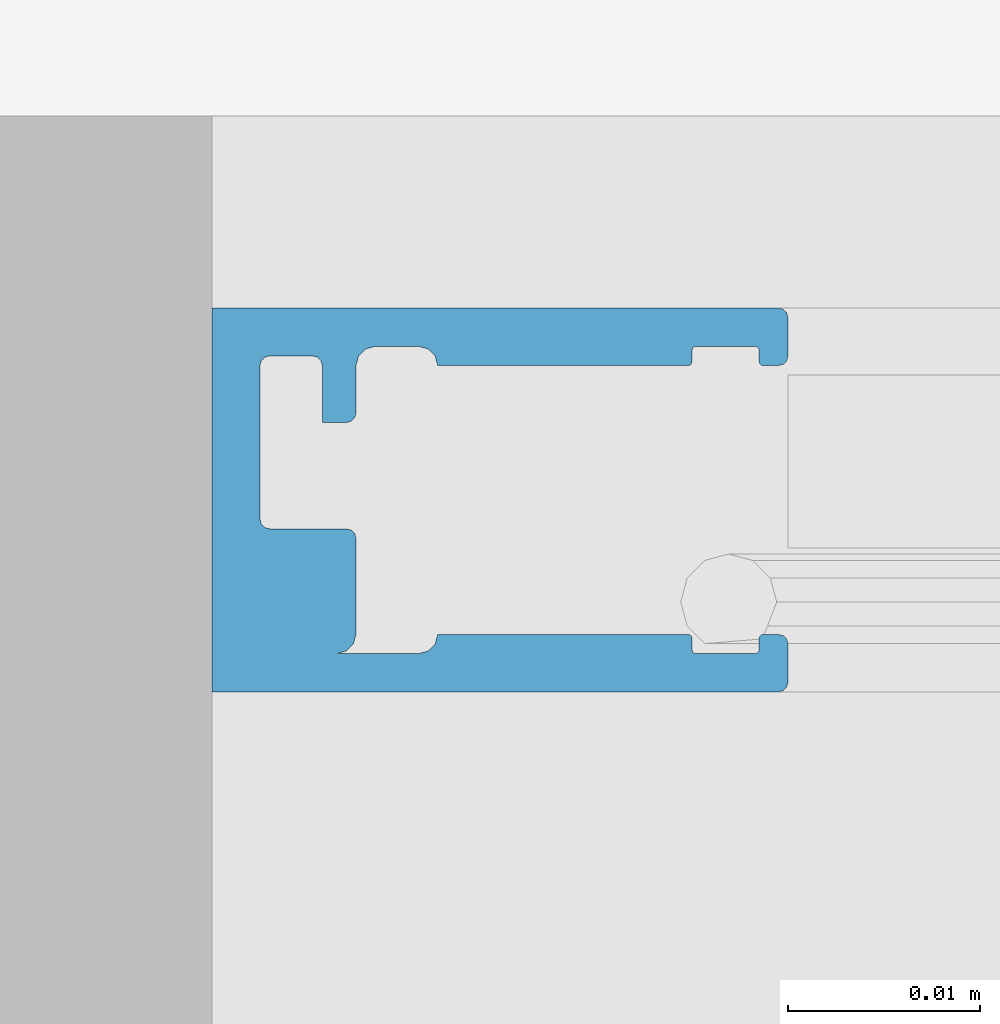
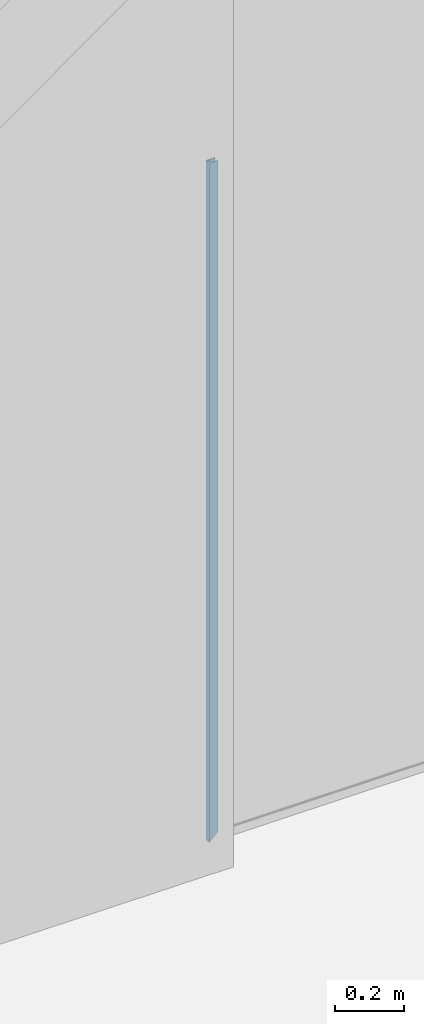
# One storey, part 87 of 387: 1 building element part, 2 elements without a shape of their own.
"""IFC2X3 building model written with IfcOpenShell, lengths in millimetres."""

from ifc_helpers import new_model, entity, si_unit, converted_unit, derived_unit, money_unit, direction, frame, origin_with_axes, place, context, subcontext, project, spatial, faceted_brep, source, transform, mapped, material, type_object, element, aggregate, save


model = new_model("IFC2X3")

# Units and contexts
model_context = context("Model", 3, precision=0.01, world=origin_with_axes(), true_north=direction((0.0, 1.0)))
body_context = subcontext(model_context, "Body", "Model", "MODEL_VIEW")
ifc_project = project(units=[si_unit("LENGTHUNIT", "METRE", prefix="MILLI"), si_unit("AREAUNIT", "SQUARE_METRE"), si_unit("VOLUMEUNIT", "CUBIC_METRE"), converted_unit("PLANEANGLEUNIT", "DEGREE", entity("IfcPlaneAngleMeasure", 0.0174532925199), si_unit("PLANEANGLEUNIT", "RADIAN"), dimensions=[0, 0, 0, 0, 0, 0, 0]), si_unit("SOLIDANGLEUNIT", "STERADIAN"), money_unit("EUR"), converted_unit("TIMEUNIT", "Year", entity("IfcTimeMeasure", 31556926.0), si_unit("TIMEUNIT", "SECOND"), dimensions=[0, 0, 1, 0, 0, 0, 0]), si_unit("MASSUNIT", "GRAM", prefix="KILO"), si_unit("THERMODYNAMICTEMPERATUREUNIT", "DEGREE_CELSIUS"), si_unit("LUMINOUSINTENSITYUNIT", "LUMEN"), si_unit("ENERGYUNIT", "JOULE", prefix="MEGA"), derived_unit("THERMALCONDUCTANCEUNIT", [(si_unit("POWERUNIT", "WATT"), 1), (si_unit("LENGTHUNIT", "METRE"), -1), (si_unit("THERMODYNAMICTEMPERATUREUNIT", "KELVIN"), -1)]), derived_unit("SPECIFICHEATCAPACITYUNIT", [(si_unit("ENERGYUNIT", "JOULE"), 1), (si_unit("MASSUNIT", "GRAM", prefix="KILO"), -1), (si_unit("THERMODYNAMICTEMPERATUREUNIT", "KELVIN"), -1)]), derived_unit("MASSDENSITYUNIT", [(si_unit("MASSUNIT", "GRAM", prefix="KILO"), 1), (si_unit("VOLUMEUNIT", "CUBIC_METRE"), -1)])], contexts=[model_context])

# Site, building, storey
site_placement = place(None, origin_with_axes())
site = spatial("IfcSite", under=ifc_project, at=site_placement, Name="Puškini 31, Narva", CompositionType="ELEMENT")
building_placement = place(site_placement, origin_with_axes())
building = spatial("IfcBuilding", under=site, at=building_placement, Name="Narva Riigigümnaasium", CompositionType="ELEMENT")
storey_placement = place(building_placement, frame((0.0, 0.0, 2640.0), z_axis=(0.0, 0.0, 1.0), x_axis=(1.0, 0.0, 0.0)))
storey = spatial("IfcBuildingStorey", under=building, at=storey_placement, Name="2.korrus +2.64", CompositionType="ELEMENT", Elevation=2640.0)

# Curtain wall, member, building element part
curtain_wall_type = type_object("IfcCurtainWallType", Name="Curtain Wall Type", PredefinedType="NOTDEFINED")
curtain_wall_placement = place(storey_placement, frame((26984.7499996, 181679.973357, -1.33722362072e-05), z_axis=(0.0, 0.0, 1.0), x_axis=(1.0, 0.0, 0.0)))
curtain_wall = element("IfcCurtainWall", 1, at=curtain_wall_placement, inside=storey, type_object=curtain_wall_type, Name="G-SKLF-18")
member_type = type_object("IfcMemberType", Name="30 x 10", PredefinedType="MULLION")
member_placement = place(curtain_wall_placement, frame((-554.75, -1.56887836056e-08, 0.0), z_axis=(0.0, 0.0, 1.0), x_axis=(1.0, 0.0, 0.0)))
member = element("IfcMember", 2, at=member_placement, type_object=member_type, Name="G-SKLF-20-raam", ObjectType="MULLION")
aggregate(curtain_wall, [member])
ifc_material = material(Name="ET-04_Alumiinium")
shared_shape = source(origin_with_axes(), body_context, "Body", "Brep", [
    faceted_brep([(0.0, -9.99999999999, 0.0), (0.0, 9.99999999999, 0.0), (0.0, 9.99999999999, 2400.00001337), (0.0, -9.99999999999, 2400.00001337), (-29.4424074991, -9.99999999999, 29.4424074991), (-29.7157683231, -9.95182408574, 29.7157683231), (-29.9224245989, -9.76651288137, 29.9224245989), (-30.0, -9.5, 30.0), (-30.0, -7.49999999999, 30.0), (-29.9330127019, -7.24999999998, 29.9330127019), (-29.75, -7.06698729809, 29.75), (-29.5, -6.99999999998, 29.5), (-28.7, -6.99999999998, 28.7), (-28.6, -7.02679491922, 28.6), (-28.5267949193, -7.09999999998, 28.5267949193), (-28.5, -7.19999999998, 28.5), (-28.5, -7.79999999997, 28.5), (-28.4732050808, -7.89999999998, 28.4732050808), (-28.4, -7.97320508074, 28.4), (-28.3, -7.99999999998, 28.3), (-25.2, -7.99999999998, 25.2), (-25.1, -7.97320508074, 25.1), (-25.0267949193, -7.89999999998, 25.0267949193), (-25.0, -7.79999999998, 25.0), (-25.0, -7.20000000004, 25.0), (-24.9732050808, -7.10000000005, 24.9732050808), (-24.9, -7.02679491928, 24.9), (-24.8, -7.00000000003, 24.8), (-11.7527616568, -6.99999999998, 11.7527616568), (-11.6187870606, -7.49999999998, 11.6187870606), (-11.2527616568, -7.86602540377, 11.2527616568), (-10.7527616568, -7.99999999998, 10.7527616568), (-8.49999999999, -8.00000000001, 8.49999999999), (-7.99999999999, -7.86602540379, 7.99999999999), (-7.63397459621, -7.50000000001, 7.63397459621), (-7.49999999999, -7.00000000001, 7.49999999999), (-7.49999999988, -4.5336921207, 7.49999999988), (-7.43301270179, -4.28369212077, 7.43301270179), (-7.24999999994, -4.10067941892, 7.24999999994), (-7.0, -4.03369212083, 7.0), (-5.74723834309, -4.03369212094, 5.74723834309), (-5.7472383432, -6.99999999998, 5.7472383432), (-5.6802510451, -7.24999999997, 5.6802510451), (-5.49723834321, -7.43301270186, 5.49723834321), (-5.24723834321, -7.49999999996, 5.24723834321), (-3.0, -7.49999999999, 3.0), (-2.75, -7.43301270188, 2.75), (-2.56698729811, -7.24999999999, 2.56698729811), (-2.5, -6.99999999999, 2.5), (-2.5, 1.00339466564, 2.5), (-2.56811176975, 1.25195735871, 2.56811176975), (-2.75096907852, 1.43357737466, 2.75096907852), (-2.99998847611, 1.50000000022, 2.99998847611), (-6.99999999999, 1.50000000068, 6.99999999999), (-7.24999999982, 1.56698729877, 7.24999999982), (-7.43301270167, 1.75000000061, 7.43301270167), (-7.49999999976, 2.00000000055, 7.49999999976), (-7.49999999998, 6.99999999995, 7.49999999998), (-7.36602540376, 7.49999999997, 7.36602540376), (-6.99999999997, 7.86602540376, 6.99999999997), (-6.49999999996, 7.99999999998, 6.49999999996), (-10.7527616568, 7.99999999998, 10.7527616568), (-11.2527616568, 7.86602540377, 11.2527616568), (-11.6187870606, 7.49999999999, 11.6187870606), (-11.7527616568, 6.99999999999, 11.7527616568), (-24.8, 7.00000000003, 24.8), (-24.9, 7.02679491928, 24.9), (-24.9732050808, 7.10000000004, 24.9732050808), (-25.0, 7.20000000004, 25.0), (-25.0, 7.8, 25.0), (-25.0267949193, 7.90000000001, 25.0267949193), (-25.1, 7.97320508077, 25.1), (-25.2, 8.00000000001, 25.2), (-28.3, 8.00000000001, 28.3), (-28.4104265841, 7.9658128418, 28.4104265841), (-28.4849473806, 7.87744178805, 28.4849473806), (-28.5, 7.76282847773, 28.5), (-28.5, 7.24760028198, 28.5), (-28.5, 7.19999999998, 28.5), (-28.5267949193, 7.09999999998, 28.5267949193), (-28.6, 7.02679491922, 28.6), (-28.7, 6.99999999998, 28.7), (-28.7609519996, 6.99999999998, 28.7609519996), (-29.5, 7.00000000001, 29.5), (-29.75, 7.06698729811, 29.75), (-29.9330127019, 7.24999999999, 29.9330127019), (-30.0, 7.49999999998, 30.0), (-30.0, 9.5, 30.0), (-29.9330127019, 9.75000000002, 29.9330127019), (-29.75, 9.93301270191, 29.75), (-29.5, 10.0, 29.5), (-29.5, 10.0, 2400.00001337), (-29.75, 9.93301270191, 2400.00001337), (-29.9330127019, 9.75000000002, 2400.00001337), (-30.0, 9.5, 2400.00001337), (-30.0, 7.49999999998, 2400.00001337), (-29.9330127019, 7.24999999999, 2400.00001337), (-29.75, 7.06698729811, 2400.00001337), (-29.5, 7.00000000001, 2400.00001337), (-28.7609519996, 6.99999999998, 2400.00001337), (-28.7, 6.99999999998, 2400.00001337), (-28.6, 7.02679491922, 2400.00001337), (-28.5267949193, 7.09999999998, 2400.00001337), (-28.5, 7.19999999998, 2400.00001337), (-28.5, 7.24760028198, 2400.00001337), (-28.5, 7.76282847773, 2400.00001337), (-28.4849473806, 7.87744178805, 2400.00001337), (-28.4104265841, 7.9658128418, 2400.00001337), (-28.3, 8.00000000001, 2400.00001337), (-25.2, 8.00000000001, 2400.00001337), (-25.1, 7.97320508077, 2400.00001337), (-25.0267949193, 7.90000000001, 2400.00001337), (-25.0, 7.8, 2400.00001337), (-25.0, 7.20000000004, 2400.00001337), (-24.9732050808, 7.10000000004, 2400.00001337), (-24.9, 7.02679491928, 2400.00001337), (-24.8, 7.00000000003, 2400.00001337), (-11.7527616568, 6.99999999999, 2400.00001337), (-11.6187870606, 7.49999999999, 2400.00001337), (-11.2527616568, 7.86602540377, 2400.00001337), (-10.7527616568, 7.99999999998, 2400.00001337), (-6.49999999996, 7.99999999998, 2400.00001337), (-6.99999999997, 7.86602540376, 2400.00001337), (-7.36602540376, 7.49999999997, 2400.00001337), (-7.49999999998, 6.99999999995, 2400.00001337), (-7.49999999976, 2.00000000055, 2400.00001337), (-7.43301270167, 1.75000000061, 2400.00001337), (-7.24999999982, 1.56698729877, 2400.00001337), (-6.99999999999, 1.50000000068, 2400.00001337), (-2.99998847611, 1.50000000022, 2400.00001337), (-2.75096907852, 1.43357737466, 2400.00001337), (-2.56811176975, 1.25195735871, 2400.00001337), (-2.5, 1.00339466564, 2400.00001337), (-2.5, -6.99999999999, 2400.00001337), (-2.56698729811, -7.24999999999, 2400.00001337), (-2.75, -7.43301270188, 2400.00001337), (-3.0, -7.49999999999, 2400.00001337), (-5.24723834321, -7.49999999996, 2400.00001337), (-5.49723834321, -7.43301270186, 2400.00001337), (-5.6802510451, -7.24999999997, 2400.00001337), (-5.7472383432, -6.99999999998, 2400.00001337), (-5.74723834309, -4.03369212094, 2400.00001337), (-7.0, -4.03369212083, 2400.00001337), (-7.24999999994, -4.10067941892, 2400.00001337), (-7.43301270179, -4.28369212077, 2400.00001337), (-7.49999999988, -4.5336921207, 2400.00001337), (-7.49999999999, -7.00000000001, 2400.00001337), (-7.63397459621, -7.50000000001, 2400.00001337), (-7.99999999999, -7.86602540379, 2400.00001337), (-8.49999999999, -8.00000000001, 2400.00001337), (-10.7527616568, -7.99999999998, 2400.00001337), (-11.2527616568, -7.86602540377, 2400.00001337), (-11.6187870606, -7.49999999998, 2400.00001337), (-11.7527616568, -6.99999999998, 2400.00001337), (-24.8, -7.00000000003, 2400.00001337), (-24.9, -7.02679491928, 2400.00001337), (-24.9732050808, -7.10000000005, 2400.00001337), (-25.0, -7.20000000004, 2400.00001337), (-25.0, -7.79999999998, 2400.00001337), (-25.0267949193, -7.89999999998, 2400.00001337), (-25.1, -7.97320508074, 2400.00001337), (-25.2, -7.99999999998, 2400.00001337), (-28.3, -7.99999999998, 2400.00001337), (-28.4, -7.97320508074, 2400.00001337), (-28.4732050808, -7.89999999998, 2400.00001337), (-28.5, -7.79999999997, 2400.00001337), (-28.5, -7.19999999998, 2400.00001337), (-28.5267949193, -7.09999999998, 2400.00001337), (-28.6, -7.02679491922, 2400.00001337), (-28.7, -6.99999999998, 2400.00001337), (-29.5, -6.99999999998, 2400.00001337), (-29.75, -7.06698729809, 2400.00001337), (-29.9330127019, -7.24999999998, 2400.00001337), (-30.0, -7.49999999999, 2400.00001337), (-30.0, -9.5, 2400.00001337), (-29.9224245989, -9.76651288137, 2400.00001337), (-29.7157683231, -9.95182408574, 2400.00001337), (-29.4424074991, -9.99999999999, 2400.00001337)], [[[0, 1, 2, 3]], [[1, 0, 4, 5, 6, 7, 8, 9, 10, 11, 12, 13, 14, 15, 16, 17, 18, 19, 20, 21, 22, 23, 24, 25, 26, 27, 28, 29, 30, 31, 32, 33, 34, 35, 36, 37, 38, 39, 40, 41, 42, 43, 44, 45, 46, 47, 48, 49, 50, 51, 52, 53, 54, 55, 56, 57, 58, 59, 60, 61, 62, 63, 64, 65, 66, 67, 68, 69, 70, 71, 72, 73, 74, 75, 76, 77, 78, 79, 80, 81, 82, 83, 84, 85, 86, 87, 88, 89, 90]], [[1, 90, 91, 2]], [[2, 91, 92, 93, 94, 95, 96, 97, 98, 99, 100, 101, 102, 103, 104, 105, 106, 107, 108, 109, 110, 111, 112, 113, 114, 115, 116, 117, 118, 119, 120, 121, 122, 123, 124, 125, 126, 127, 128, 129, 130, 131, 132, 133, 134, 135, 136, 137, 138, 139, 140, 141, 142, 143, 144, 145, 146, 147, 148, 149, 150, 151, 152, 153, 154, 155, 156, 157, 158, 159, 160, 161, 162, 163, 164, 165, 166, 167, 168, 169, 170, 171, 172, 173, 174, 175, 176, 177, 3]], [[4, 0, 3, 177]], [[5, 4, 177, 176]], [[6, 5, 176, 175]], [[7, 6, 175, 174]], [[8, 7, 174, 173]], [[9, 8, 173, 172]], [[10, 9, 172, 171]], [[11, 10, 171, 170]], [[12, 11, 170, 169]], [[13, 12, 169, 168]], [[14, 13, 168, 167]], [[15, 14, 167, 166]], [[16, 15, 166, 165]], [[17, 16, 165, 164]], [[18, 17, 164, 163]], [[19, 18, 163, 162]], [[20, 19, 162, 161]], [[21, 20, 161, 160]], [[22, 21, 160, 159]], [[23, 22, 159, 158]], [[24, 23, 158, 157]], [[25, 24, 157, 156]], [[26, 25, 156, 155]], [[27, 26, 155, 154]], [[28, 27, 154, 153]], [[29, 28, 153, 152]], [[30, 29, 152, 151]], [[31, 30, 151, 150]], [[32, 31, 150, 149]], [[33, 32, 149, 148]], [[34, 33, 148, 147]], [[35, 34, 147, 146]], [[36, 35, 146, 145]], [[37, 36, 145, 144]], [[38, 37, 144, 143]], [[39, 38, 143, 142]], [[40, 39, 142, 141]], [[41, 40, 141, 140]], [[42, 41, 140, 139]], [[43, 42, 139, 138]], [[44, 43, 138, 137]], [[45, 44, 137, 136]], [[46, 45, 136, 135]], [[47, 46, 135, 134]], [[48, 47, 134, 133]], [[49, 48, 133, 132]], [[50, 49, 132, 131]], [[51, 50, 131, 130]], [[52, 51, 130, 129]], [[53, 52, 129, 128]], [[54, 53, 128, 127]], [[55, 54, 127, 126]], [[56, 55, 126, 125]], [[57, 56, 125, 124]], [[58, 57, 124, 123]], [[59, 58, 123, 122]], [[60, 59, 122, 121]], [[61, 60, 121, 120]], [[62, 61, 120, 119]], [[63, 62, 119, 118]], [[64, 63, 118, 117]], [[65, 64, 117, 116]], [[66, 65, 116, 115]], [[67, 66, 115, 114]], [[68, 67, 114, 113]], [[69, 68, 113, 112]], [[70, 69, 112, 111]], [[71, 70, 111, 110]], [[72, 71, 110, 109]], [[73, 72, 109, 108]], [[74, 73, 108, 107]], [[75, 74, 107, 106]], [[76, 75, 106, 105]], [[77, 76, 105, 104]], [[78, 77, 104, 103]], [[79, 78, 103, 102]], [[80, 79, 102, 101]], [[81, 80, 101, 100]], [[82, 81, 100, 99]], [[83, 82, 99, 98]], [[84, 83, 98, 97]], [[85, 84, 97, 96]], [[86, 85, 96, 95]], [[87, 86, 95, 94]], [[88, 87, 94, 93]], [[89, 88, 93, 92]], [[90, 89, 92, 91]]]),
])
building_element_part_placement = place(member_placement, origin_with_axes())
building_element_part = element("IfcBuildingElementPart", 3, at=building_element_part_placement, material=ifc_material, Name="ET-04_Alumiinium", context=body_context, shape_type="MappedRepresentation", body=[
    mapped(shared_shape, transform((0.0, 0.0, 0.0), x_axis=(-1.0, 0.0, 0.0), y_axis=(0.0, -1.0, 0.0), z_axis=(0.0, 0.0, 1.0))),
])
aggregate(member, [building_element_part])

save(model, "model.ifc")
